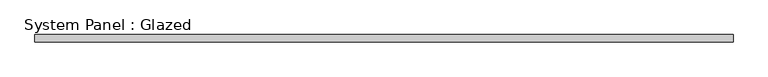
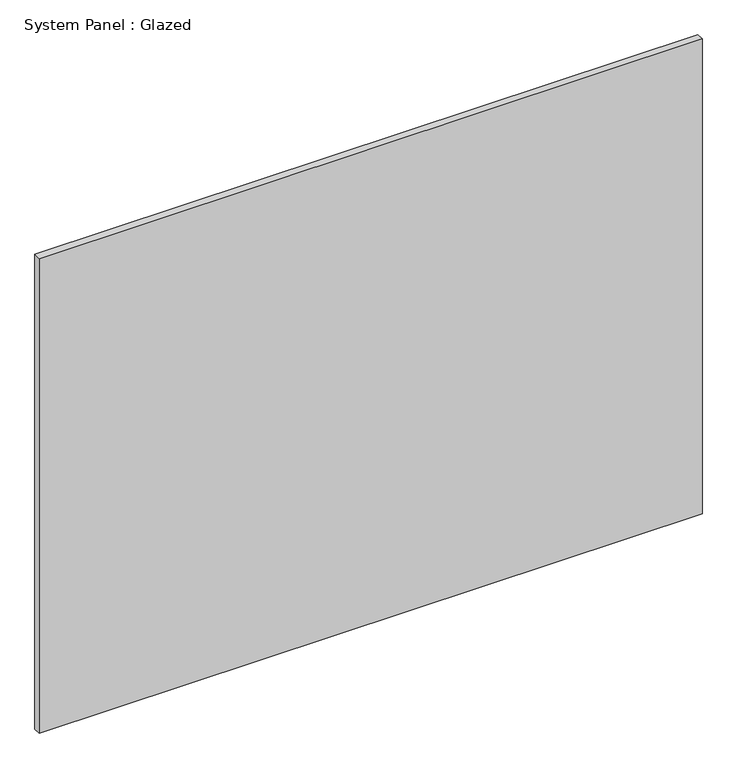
"""IFC4 building model written with IfcOpenShell, lengths in millimetres: plate geometry, System Panel : Glazed."""

from ifc_helpers import new_model, si_unit, origin, origin_with_axes, place, context, project, spatial, polyline, outline, extrude, source, transform, mapped, element, save


def system_panel_glazed_7cc7fb14(model_context):
    return source(origin(), model_context, "Body", "SweptSolid", [
        extrude(outline(polyline([(1187.45, 19.05), (-1187.45, 19.05), (-1187.45, 44.45), (1187.45, 44.45), (1187.45, 19.05)])), origin_with_axes(), (0.0, 0.0, 1.0), 1797.05),
    ])


if __name__ == "__main__":
    model = new_model("IFC4")
    model_context = context("Model", 3, world=origin())
    ifc_project = project(units=[si_unit("LENGTHUNIT", "METRE", prefix="MILLI")], contexts=[model_context])
    site = spatial("IfcSite", under=ifc_project)
    building = spatial("IfcBuilding", under=site)
    placement = place(None, origin())
    system_panel_glazed_shape = system_panel_glazed_7cc7fb14(model_context)
    element("IfcPlate", 1, ObjectType="System Panel : Glazed", at=placement, inside=building, context=model_context, shape_type="MappedRepresentation", body=[
        mapped(system_panel_glazed_shape, transform((0.0, 0.0, 0.0), x_axis=(1.0, 0.0, 0.0), y_axis=(0.0, 1.0, 0.0), z_axis=(0.0, 0.0, 1.0))),
    ])
    save(model, "model.ifc")
